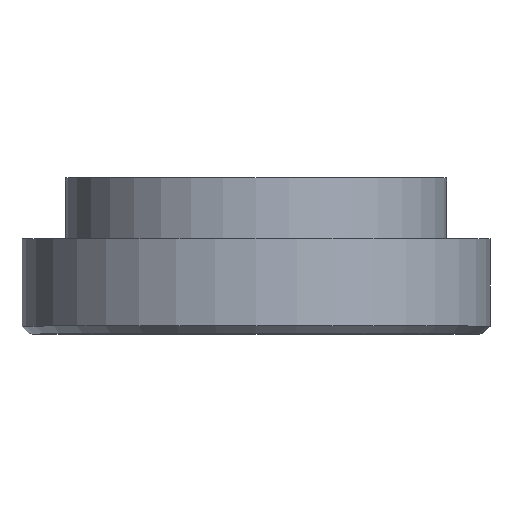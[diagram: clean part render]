
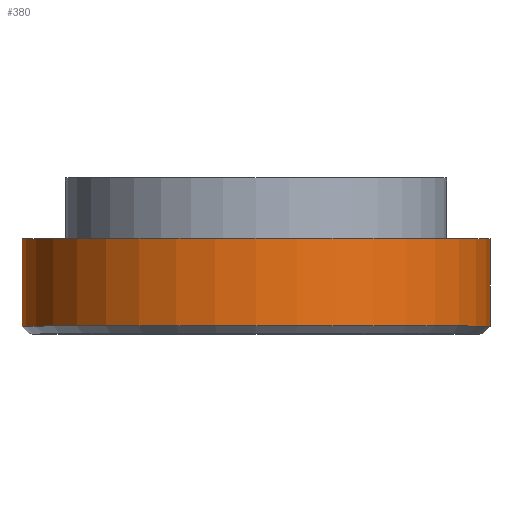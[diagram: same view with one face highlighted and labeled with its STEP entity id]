
A CAD part, top view. The second image highlights one B-rep face of the part: STEP entity #380.
In plain terms, the highlighted cylindrical face has radius 15 mm (diameter 30 mm), a full revolution.
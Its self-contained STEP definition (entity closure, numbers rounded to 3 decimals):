
#380=ADVANCED_FACE('', (#390,#400), #410, .T.);
#1020=AXIS2_PLACEMENT_3D('Ax2Pl3d', #1030, #1040, #1050);
#1100=AXIS2_PLACEMENT_3D('Ax2Pl3d', #1110, #1120, #1130);
#1140=AXIS2_PLACEMENT_3D('Ax2Pl3d', #1150, #1160, #1170);
#1030=CARTESIAN_POINT('HicPkt', (482.248,0.,
140.983));
#1320=CARTESIAN_POINT('', (497.248,0.,
140.983));
#1110=CARTESIAN_POINT('HicPkt', (482.248,-5.6,140.983));
#1330=CARTESIAN_POINT('', (497.248,-5.6,140.983));
#1150=CARTESIAN_POINT('HicPkt', (482.248,-5.6,
140.983));
#1410=CIRCLE('Circle', #1020, 15.);
#1420=CIRCLE('Circle', #1100, 15.);
#410=CYLINDRICAL_SURFACE('Zyl', #1140, 15.);
#1040=DIRECTION('Axis', (0.,-1.,0.)
);
#1050=DIRECTION('RefDirection', (0.,
0.,-1.));
#1120=DIRECTION('Axis', (0.,1.,0.));
#1130=DIRECTION('RefDirection', (0.,
0.,-1.));
#1160=DIRECTION('Axis', (0.,1.,0.));
#1170=DIRECTION('RefDirection', (0.,
0.,-1.));
#1980=EDGE_CURVE('', #1990, #1990, #1410, .T.);
#2000=EDGE_CURVE('', #2010, #2010, #1420, .T.);
#2340=EDGE_LOOP('Edge_loop', (#2350));
#2360=EDGE_LOOP('Edge_loop', (#2370));
#400=FACE_BOUND('', #2360, .T.);
#390=FACE_OUTER_BOUND('Face_outer_bound', #2340, .T.);
#2350=ORIENTED_EDGE('', *, *, #2000, .T.);
#2370=ORIENTED_EDGE('', *, *, #1980, .T.);
#1990=VERTEX_POINT('', #1320);
#2010=VERTEX_POINT('', #1330);
